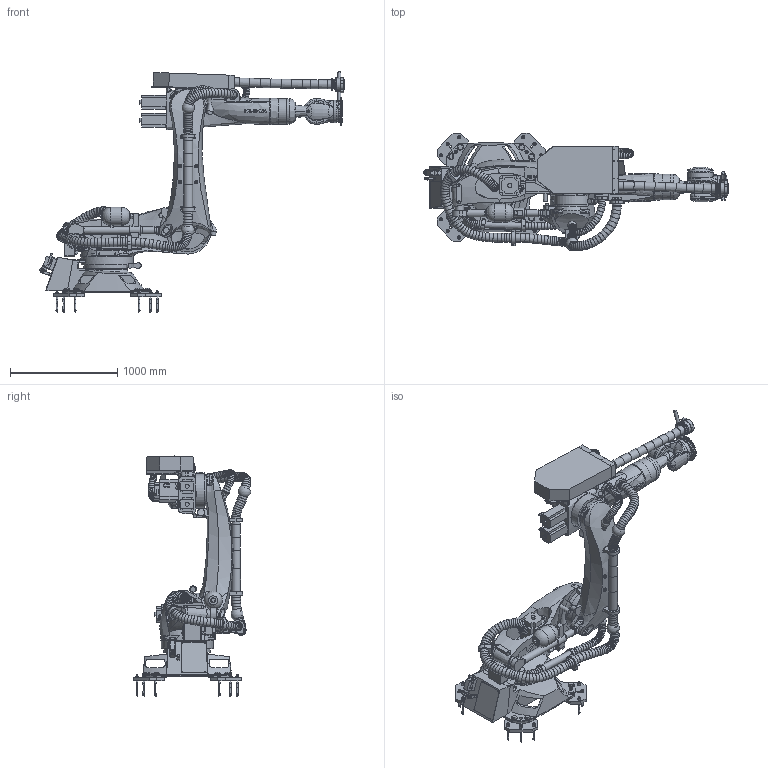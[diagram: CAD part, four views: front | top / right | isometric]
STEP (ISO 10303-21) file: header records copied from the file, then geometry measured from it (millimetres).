
FILE_DESCRIPTION(/* description */ (''),/* implementation_level */ '2;1');
FILE_NAME(/* name */ 'KR240 R3100 K ultra_KR270 R3100 K ultra.stp',/* time_stamp */ '2016-05-17T14:56:27+02:00',/* author */ (''),/* organization */ (''),/* preprocessor_version */ 'ST-DEVELOPER v15',/* originating_system */ 'SIEMENS PLM Software NX 9.0',/* authorisation */ '');
FILE_SCHEMA (('AUTOMOTIVE_DESIGN { 1 0 10303 214 3 1 1 1 }'));
Products named in the file (1): KR240 R3100 K ultra_KR270 R3100 K ultra
Bounding box: 2840.88 x 1096.99 x 2238.05 mm (x, y, z)
Volume: 524196887 mm3; surface area: 17889128.7 mm2
Topology: 99 solids, 108 shells, 3497 faces, 8451 edges, 5429 vertices
Faces by surface type: plane 1805, cylinder 675, torus 462, bspline 233, cone 231, extrusion 72, sphere 12, revolution 7
Full cylindrical faces by diameter (mm): 3.05 x1, 5 x3, 6 x5, 6.4 x4, 6.6 x4, 6.8 x20, 7 x16, 8 x19, 8.5 x2, 9 x28, 10 x20, 11 x4, 12 x9, 13 x2, 14 x4, 15 x6, 16 x39, 18 x14, 20 x12, 23 x2, 24 x16, 25 x3, 28 x9, 29 x1, 30 x22, 35 x2, 37 x5, 46 x2, 46.5 x1, 50 x12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
Entity records: 161275 total; most frequent: CARTESIAN_POINT 65032, ORIENTED_EDGE 14394, DIRECTION 14366, EDGE_CURVE 7197, AXIS2_PLACEMENT_3D 5328, VERTEX_POINT 5188, EDGE_LOOP 4988, VECTOR 3703
